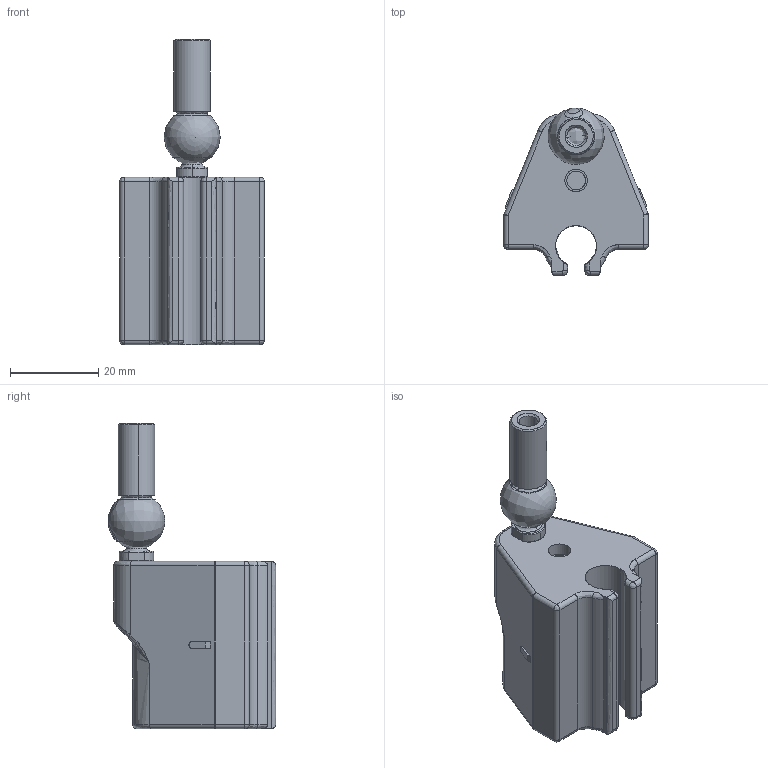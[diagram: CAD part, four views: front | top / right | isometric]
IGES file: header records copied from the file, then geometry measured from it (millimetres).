
Start section: SolidWorks IGES file using analytic representation for surfaces
Global section: file name: \\srv4gefran\dir-cat\Disegni Catalogo\Posizione\WPG\WPG-A-0100\3D\Solidworks 2019\ACCESSORI\PCUR221x.IGS; native system: SolidWorks 2019; preprocessor: SolidWorks 2019; author: Loda-w1; date: 181217.142235; units: millimetre
Bounding box: 32.8 x 38 x 69.33 mm (x, y, z)
Surface area: 10021.9 mm2 (no closed solid volume)
Topology: 0 solids, 0 shells, 192 faces, 2045 edges, 2034 vertices
Faces by surface type: bspline 100, revolution 92
